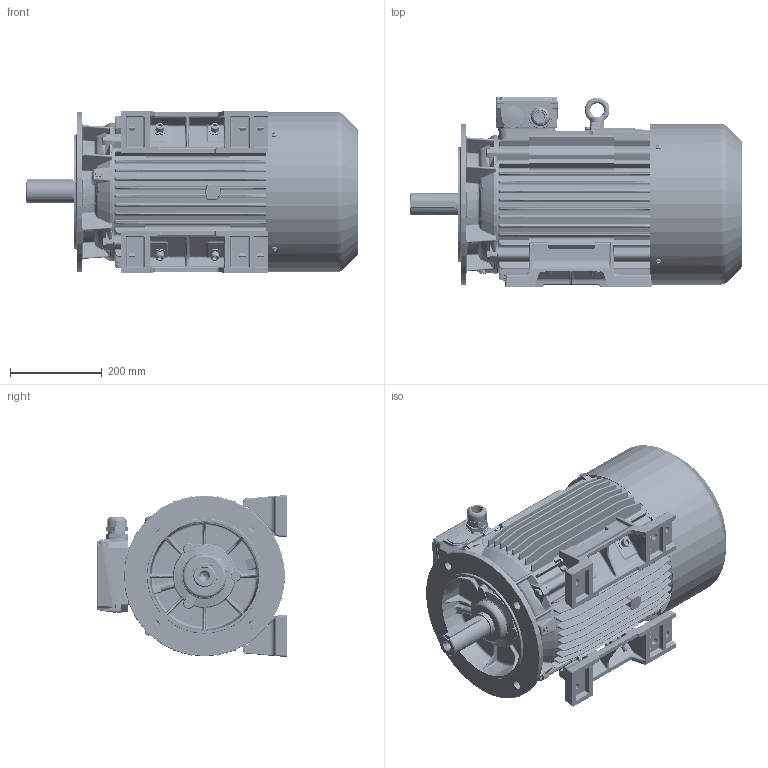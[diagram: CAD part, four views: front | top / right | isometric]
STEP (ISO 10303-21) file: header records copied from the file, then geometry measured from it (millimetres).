
FILE_DESCRIPTION(/* description */ ('Unknown'),/* implementation_level */ '2;1');
FILE_NAME(/* name */ 'S-215-01-2021',/* time_stamp */ '2021-07-15T08:07:50+02:00',/* author */ ('Unknown'),/* organization */ ('Unknown'),/* preprocessor_version */ 'ST-DEVELOPER v16.7',/* originating_system */ 'DEX',/* authorisation */ $);
FILE_SCHEMA (('AUTOMOTIVE_DESIGN {1 0 10303 214 3 1 1}'));
Products named in the file (36): S-215-01-2021; PLg-69-19_PLg-69-19-4; SPg-39-66_poz.6; Œruby szeœciok¹tne 82105_Œruba M12x40; zestawienie skrzynki_180,160; RDg-59-12; Wkrêty walcowe 82215_M5x18; QDg-53-05; QDg-53-29_1; SDg-53-03_2; SDh-19-56_6; D³awik M40; Nakrêtka M40; Uszczelka M40; 6205-001-01; M6 x 10_M6x10; Œruby z uchem 82472_M12; PVg-69-06_PVg-69-06-16; Tabliczka2_Domyœlna; PLg-69-52_10; DIN 625 - 6311; 6105-002_1-stojan; Podk³adki okr¹g³e 82005_M12; Œruby z gniazdem szeœciok¹tnym 82302_M12x45; 6195-002_1; 6195-002_2; Podk³adki sprê¿yste 82008_Podk³adka sprê¿ysta Z12.2; Zacisk uziemienia_M6; Wkrêty walcowe 82215_M6x14; Podk³adki okr¹g³e 82005_M6; Podk³adki sprê¿yste 82008_Podk³adka sprê¿ysta Z6.1; RVg-69-243_2; SNG-49-38; AB 14x9x100
Assembly tree (57 placements, depth 4):
  S-215-01-2021
    PLg-69-19_PLg-69-19-4
    SPg-39-66_poz.6
    Œruby szeœciok¹tne 82105_Œruba M12x40  x8
    zestawienie skrzynki_180,160
      RDg-59-12
      Wkrêty walcowe 82215_M5x18  x4
      QDg-53-05
      QDg-53-29_1
      SDg-53-03_2
      SDh-19-56_6
      D³awik M40
        D³awik M40
        Nakrêtka M40
        Uszczelka M40
    6205-001-01
    M6 x 10_M6x10  x4
    Œruby z uchem 82472_M12
    PVg-69-06_PVg-69-06-16
    Tabliczka2_Domyœlna
    PLg-69-52_10
    DIN 625 - 6311  x2
    6105-002_1-stojan
      Podk³adki okr¹g³e 82005_M12  x4
      6105-002_1-stojan
      Œruby z gniazdem szeœciok¹tnym 82302_M12x45  x4
      6195-002_1
      6195-002_2
      Podk³adki sprê¿yste 82008_Podk³adka sprê¿ysta Z12.2  x2
    Zacisk uziemienia_M6
      Wkrêty walcowe 82215_M6x14
      Podk³adki okr¹g³e 82005_M6  x2
      Podk³adki sprê¿yste 82008_Podk³adka sprê¿ysta Z6.1
    RVg-69-243_2
    SNG-49-38
    AB 14x9x100
Bounding box: 723 x 413.57 x 353.36 mm (x, y, z)
Volume: 13458454.6 mm3; surface area: 3348850 mm2
Topology: 53 solids, 53 shells, 10175 faces, 26616 edges, 16544 vertices
Faces by surface type: cylinder 3768, plane 3346, bspline 2059, torus 544, cone 277, sphere 181
Full cylindrical faces by diameter (mm): 3 x10, 3.4 x2, 4 x1, 4.15 x4, 4.918 x4, 5 x11, 5.3 x4, 5.5 x4, 6 x5, 6.4 x6, 6.5 x1, 6.7 x1, 6.8 x1, 7 x2, 8 x1, 9 x1, 9.4 x1, 10 x4, 10.2 x8, 10.5 x5, 12 x17, 12.5 x2, 13 x4, 13.5 x8, 14.5 x1, 15 x10, 16 x1, 16.6 x8, 17 x1, 18 x4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
Entity records: 446198 total; most frequent: CARTESIAN_POINT 215404, ORIENTED_EDGE 50726, DIRECTION 42989, EDGE_CURVE 25363, VERTEX_POINT 16015, AXIS2_PLACEMENT_3D 15826, LINE 11337, VECTOR 11337
